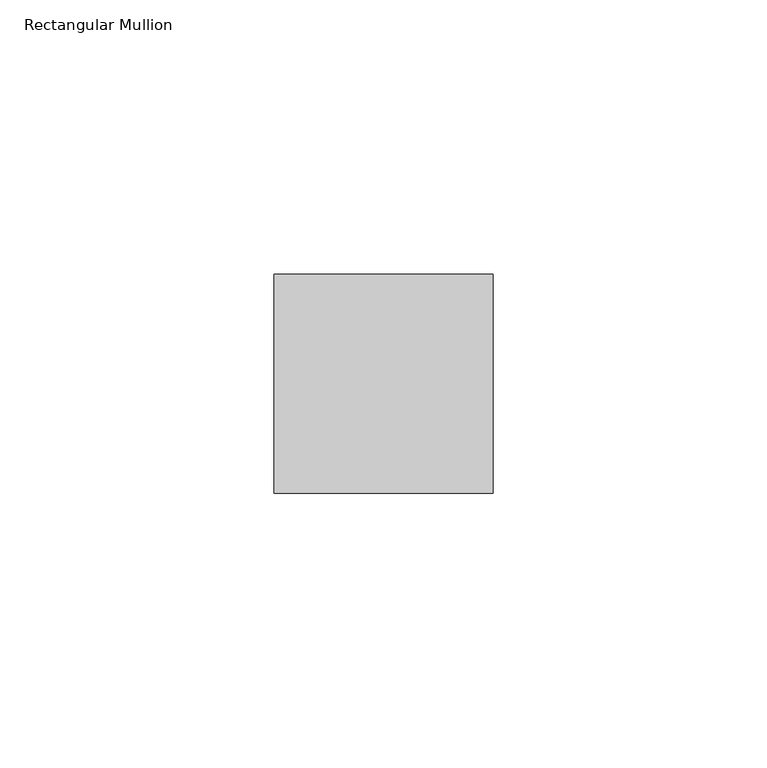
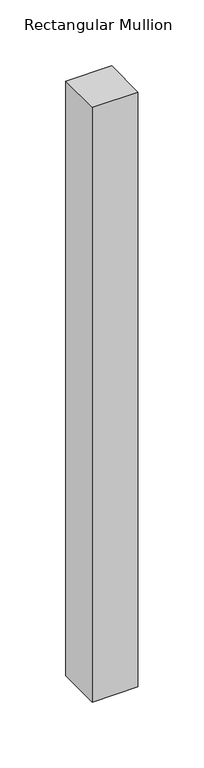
"""IFC4 building model written with IfcOpenShell, lengths in millimetres: member geometry, Rectangular Mullion : Danpal_NM_Middle-H-Mullion."""

import ifcopenshell
import ifcopenshell.guid

model = None  # the IFC model being written
_history = None  # IfcOwnerHistory: only IFC2X3 demands one
_inside = {}  # id of a spatial element -> (the spatial element, [elements in it])
_under = {}  # id of a project, library or spatial element -> (it, [spatial elements below it])
_declared = {}  # id of a project -> (the project, [libraries it declares])
_typed = {}  # id of a type object -> (the type object, [elements of that type])
_made_of = {}  # id of a material, layer set ... -> (it, [elements and type objects made of it])


def new_model(schema):
    """Start an empty IFC model of exactly this schema.

    Asked for "IFC4X3", IfcOpenShell would pick the latest addendum, in which some entities
    have other attributes; the version numbers below select the first issue.
    IFC2X3 requires an IfcOwnerHistory on every rooted entity: one is made here for all.
    """
    global model, _history
    if schema == "IFC4X3":
        model = ifcopenshell.file(schema_version=(4, 3, 0, 0))
    else:
        model = ifcopenshell.file(schema=schema)
    _inside.clear()
    _under.clear()
    _declared.clear()
    _typed.clear()
    _made_of.clear()
    _history = None
    if model.schema == "IFC2X3":
        org = make("IfcOrganization", Name="unknown")
        user = make(
            "IfcPersonAndOrganization",
            ThePerson=make("IfcPerson", FamilyName="unknown"),
            TheOrganization=org,
        )
        app = make(
            "IfcApplication",
            ApplicationDeveloper=org,
            Version="unknown",
            ApplicationFullName="unknown",
            ApplicationIdentifier="unknown",
        )
        _history = make(
            "IfcOwnerHistory",
            OwningUser=user,
            OwningApplication=app,
            ChangeAction="ADDED",
            CreationDate=0,
        )
    return model


def make(cls, **values):
    """One entity of the class cls with the attributes given. An attribute that is None is left unset."""
    return model.create_entity(
        cls, **{name: value for name, value in values.items() if value is not None}
    )


def rooted(cls, **values):
    """An entity with a GlobalId (a new one), such as an element, a storey or a relation."""
    return make(cls, GlobalId=ifcopenshell.guid.new(), OwnerHistory=_history, **values)


def si_unit(unit_type, name, prefix=None):
    """IfcSIUnit, for example si_unit("LENGTHUNIT", "METRE", prefix="MILLI")."""
    return make("IfcSIUnit", UnitType=unit_type, Prefix=prefix, Name=name)


def assignment(units):
    """IfcUnitAssignment: the units of a project."""
    return None if units is None else make("IfcUnitAssignment", Units=units)


def point(xyz):
    """IfcCartesianPoint."""
    return None if xyz is None else make("IfcCartesianPoint", Coordinates=xyz)


def direction(xyz):
    """IfcDirection."""
    return None if xyz is None else make("IfcDirection", DirectionRatios=xyz)


def frame(location, z_axis=None, x_axis=None):
    """IfcAxis2Placement3D, a coordinate frame: its origin and axes. An axis left out is left unset."""
    return make(
        "IfcAxis2Placement3D",
        Location=point(location),
        Axis=direction(z_axis),
        RefDirection=direction(x_axis),
    )


def origin():
    """The frame at (0, 0, 0) with its axes left unset."""
    return frame((0.0, 0.0, 0.0))


def place(relative_to, where):
    """IfcLocalPlacement: puts the frame where relative to a parent placement (None: the world)."""
    return make(
        "IfcLocalPlacement", PlacementRelTo=relative_to, RelativePlacement=where
    )


def context(
    kind, dimensions, precision=None, world=None, true_north=None, identifier=None
):
    """IfcGeometricRepresentationContext, for example the 3D "Model" context."""
    return make(
        "IfcGeometricRepresentationContext",
        ContextIdentifier=identifier,
        ContextType=kind,
        CoordinateSpaceDimension=dimensions,
        Precision=precision,
        WorldCoordinateSystem=world,
        TrueNorth=true_north,
    )


def project(units=None, contexts=None):
    """IfcProject with its units and contexts."""
    return rooted(
        "IfcProject",
        Name="project",
        RepresentationContexts=contexts,
        UnitsInContext=assignment(units),
    )


def spatial(cls, under=None, at=None, **own):
    """A site, building, storey or space (cls), placed at a placement, below another one or the project."""
    s = rooted(cls, ObjectPlacement=at, **own)
    if under is not None:
        _under.setdefault(under.id(), (under, []))[1].append(s)
    return s


def polyline(points):
    """IfcPolyline through the points."""
    return make("IfcPolyline", Points=[point(p) for p in points])


def outline(outer, holes=None, kind="AREA"):
    """IfcArbitraryClosedProfileDef: a profile drawn as a closed curve; with holes, ...WithVoids."""
    if holes is None:
        return make("IfcArbitraryClosedProfileDef", ProfileType=kind, OuterCurve=outer)
    return make(
        "IfcArbitraryProfileDefWithVoids",
        ProfileType=kind,
        OuterCurve=outer,
        InnerCurves=holes,
    )


def extrude(swept, where, along, depth):
    """IfcExtrudedAreaSolid: the profile swept, set in the frame where, extruded along a direction by depth."""
    return make(
        "IfcExtrudedAreaSolid",
        SweptArea=swept,
        Position=where,
        ExtrudedDirection=direction(along),
        Depth=depth,
    )


def shape(context_of_items, identifier, shape_type, items):
    """IfcShapeRepresentation: the items that make up one representation, for example the "Body"."""
    return make(
        "IfcShapeRepresentation",
        ContextOfItems=context_of_items,
        RepresentationIdentifier=identifier,
        RepresentationType=shape_type,
        Items=items,
    )


def source(mapping_origin, context_of_items, identifier, shape_type, items):
    """IfcRepresentationMap: a shape defined once, which mapped items show again and again."""
    return make(
        "IfcRepresentationMap",
        MappingOrigin=mapping_origin,
        MappedRepresentation=shape(context_of_items, identifier, shape_type, items),
    )


def transform(
    local_origin,
    x_axis=None,
    y_axis=None,
    z_axis=None,
    scale=None,
    scale2=None,
    scale3=None,
    uniform=True,
):
    """IfcCartesianTransformationOperator3D, or its non-uniform kind. x_axis, y_axis, z_axis: its Axis1, 2, 3."""
    if uniform:
        return make(
            "IfcCartesianTransformationOperator3D",
            Axis1=direction(x_axis),
            Axis2=direction(y_axis),
            LocalOrigin=point(local_origin),
            Scale=scale,
            Axis3=direction(z_axis),
        )
    return make(
        "IfcCartesianTransformationOperator3DnonUniform",
        Axis1=direction(x_axis),
        Axis2=direction(y_axis),
        LocalOrigin=point(local_origin),
        Scale=scale,
        Axis3=direction(z_axis),
        Scale2=scale2,
        Scale3=scale3,
    )


def mapped(mapping_source, mapping_target):
    """IfcMappedItem: shows the shape of a source again, moved by a transform."""
    return make(
        "IfcMappedItem", MappingSource=mapping_source, MappingTarget=mapping_target
    )


def made_of(thing, what):
    """Note that an element or type object is made of a material, layer set ...; save() writes the relation."""
    if what is not None:
        _made_of.setdefault(what.id(), (what, []))[1].append(thing)
    return thing


def element(
    cls,
    number,
    at=None,
    inside=None,
    cuts=None,
    type_object=None,
    material=None,
    context=None,
    identifier="Body",
    shape_type=None,
    held_by="IfcProductDefinitionShape",
    body=None,
    shapes=None,
    **own,
):
    """One element of the class cls, such as IfcWall. Its Tag is "e" and its number.

    at: its placement. inside: the storey or other place that contains it. cuts: it is an
    opening in that element (IfcRelVoidsElement). A single representation is given by context,
    identifier, shape_type and body (its items); several are given by shapes. held_by: the class
    of the entity that holds the representations. save() writes the other relations.
    """
    e = rooted(cls, Tag="e%d" % number, ObjectPlacement=at, **own)
    if body is not None:
        shapes = [shape(context, identifier, shape_type, body)]
    if shapes is not None:
        e.Representation = make(held_by, Representations=shapes)
    if inside is not None:
        _inside.setdefault(inside.id(), (inside, []))[1].append(e)
    if cuts is not None:
        rooted(
            "IfcRelVoidsElement", RelatingBuildingElement=cuts, RelatedOpeningElement=e
        )
    if type_object is not None:
        _typed.setdefault(type_object.id(), (type_object, []))[1].append(e)
    return made_of(e, material)


def aggregate(whole, parts):
    """IfcRelAggregates: a whole, such as a stair, and the parts it consists of."""
    return rooted("IfcRelAggregates", RelatingObject=whole, RelatedObjects=parts)


def save(model, path):
    """Write the relations noted so far, then the file.

    IfcRelAggregates (storeys below a building ...), IfcRelContainedInSpatialStructure (elements
    in a storey), IfcRelDefinesByType, IfcRelAssociatesMaterial and IfcRelDeclares: one each for
    every whole, place, type object, material and project.
    """
    for whole, parts in _under.values():
        aggregate(whole, parts)
    for where, things in _inside.values():
        rooted(
            "IfcRelContainedInSpatialStructure",
            RelatedElements=things,
            RelatingStructure=where,
        )
    for kind, things in _typed.values():
        rooted("IfcRelDefinesByType", RelatedObjects=things, RelatingType=kind)
    for what, things in _made_of.values():
        rooted("IfcRelAssociatesMaterial", RelatedObjects=things, RelatingMaterial=what)
    for by, libraries in _declared.values():
        rooted("IfcRelDeclares", RelatingContext=by, RelatedDefinitions=libraries)
    model.write(path)


def rectangular_mullion_693fc03c(model_context):
    return source(origin(), model_context, "Body", "SweptSolid", [
        extrude(outline(polyline([(59.9, 13.2378279), (19.9, 13.2378279), (19.9, 53.2378279), (59.9, 53.2378279), (59.9, 13.2378279)])), frame((0.0, 0.0, -550.9514438), z_axis=(0.0, 0.0, 1.0), x_axis=(1.0, 0.0, 0.0)), (0.0, 0.0, 1.0), 550.9514438),
    ])


if __name__ == "__main__":
    model = new_model("IFC4")
    model_context = context("Model", 3, world=origin())
    ifc_project = project(units=[si_unit("LENGTHUNIT", "METRE", prefix="MILLI")], contexts=[model_context])
    site = spatial("IfcSite", under=ifc_project)
    building = spatial("IfcBuilding", under=site)
    placement = place(None, origin())
    rectangular_mullion_shape = rectangular_mullion_693fc03c(model_context)
    element("IfcMember", 1, ObjectType="Rectangular Mullion : Danpal_NM_Middle-H-Mullion", at=placement, inside=building, context=model_context, shape_type="MappedRepresentation", body=[
        mapped(rectangular_mullion_shape, transform((0.0, 0.0, 0.0), x_axis=(1.0, 0.0, 0.0), y_axis=(0.0, 1.0, 0.0), z_axis=(0.0, 0.0, 1.0))),
    ])
    save(model, "model.ifc")
